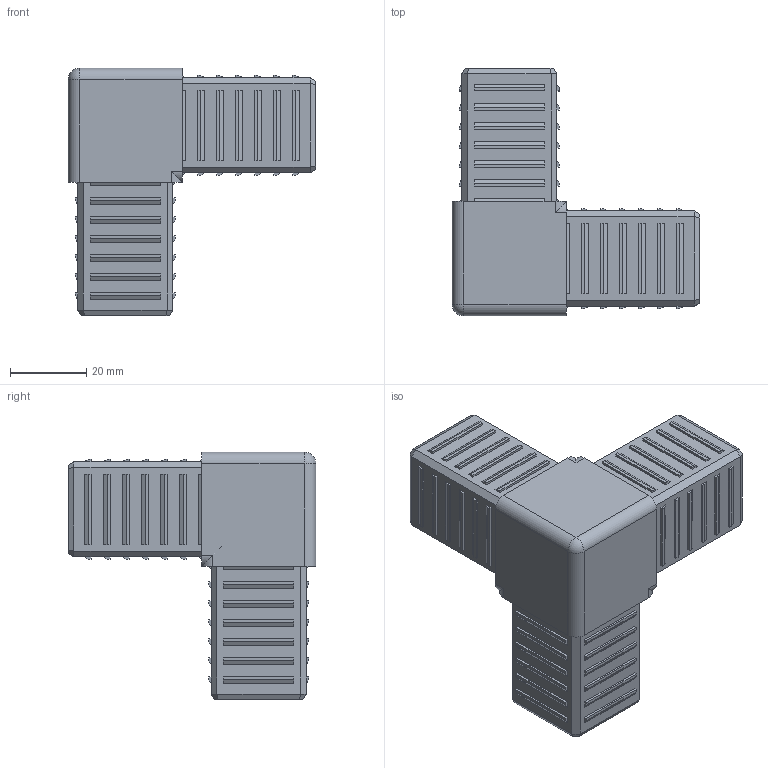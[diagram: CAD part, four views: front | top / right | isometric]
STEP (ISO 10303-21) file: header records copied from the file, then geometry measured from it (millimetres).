
FILE_DESCRIPTION (( 'STEP AP203' ), '1' );
FILE_NAME ('013.030.103.STEP', '2020-09-28T06:29:57', ( '' ), ( '' ), 'SwSTEP 2.0', 'SolidWorks 2018', '' );
FILE_SCHEMA (( 'CONFIG_CONTROL_DESIGN' ));
Length unit declared in the file: millimetre
Products named in the file (1): 013.030.103
Bounding box: 65 x 65 x 65 mm (x, y, z)
Volume: 39632.6 mm3; surface area: 33655.5 mm2
Topology: 1 solids, 1 shells, 523 faces, 1321 edges, 867 vertices
Faces by surface type: plane 498, cylinder 24, sphere 1
Entity records: 15429 total; most frequent: CARTESIAN_POINT 2747, ORIENTED_EDGE 2640, DIRECTION 2386, EDGE_CURVE 1320, LINE 1278, VECTOR 1278, VERTEX_POINT 867, EDGE_LOOP 601
